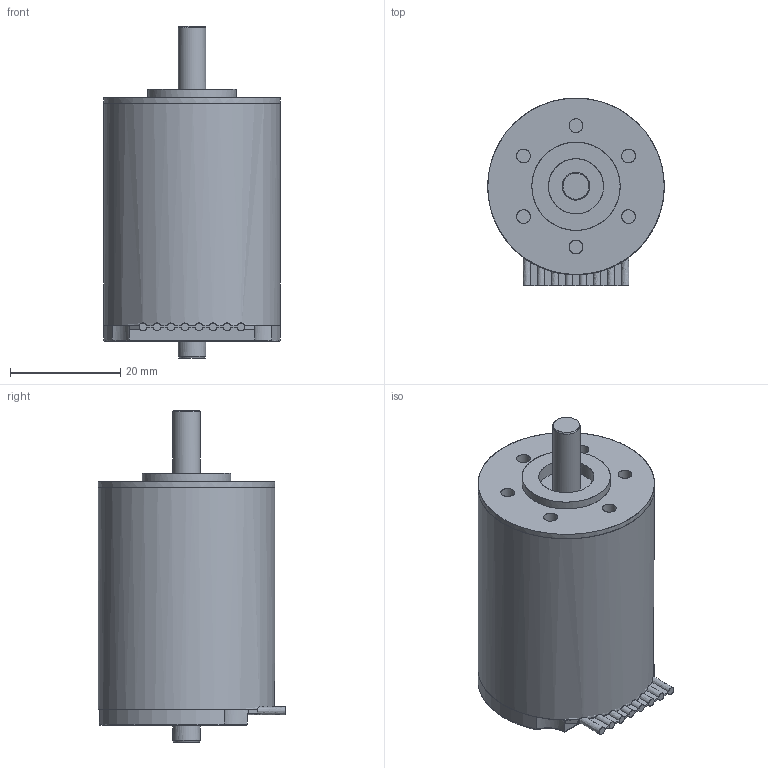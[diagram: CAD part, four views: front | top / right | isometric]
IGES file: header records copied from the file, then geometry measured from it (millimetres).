
Global section: file name: R:\a_public\Organisationsentwicklung\Aufgaben\CAD_Modelle_Vertrieb\Motor\32xx_BX4\3242.BX4.igs; native system: NX V7.5; preprocessor: SIEMENS PLM Software NX 7.5; author: DR. FRITZ FAULHABER GmbH & Co. KG; organization: DR. FRITZ FAULHABER GmbH & Co. KG; date: 20121031.103507; units: millimetre
Bounding box: 32 x 34 x 60.2 mm (x, y, z)
Surface area: 6852.5 mm2 (no closed solid volume)
Topology: 0 solids, 0 shells, 118 faces, 895 edges, 867 vertices
Faces by surface type: bspline 118
